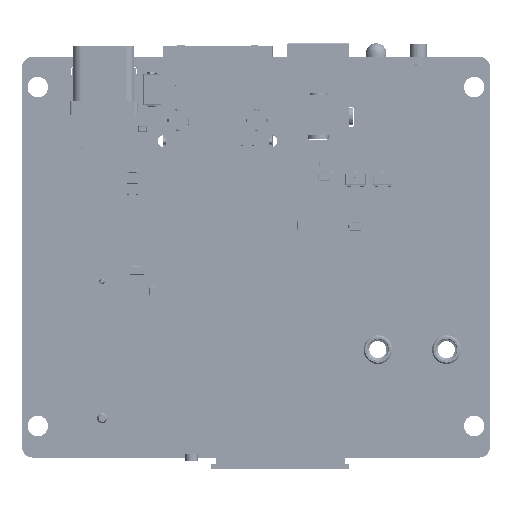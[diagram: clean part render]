
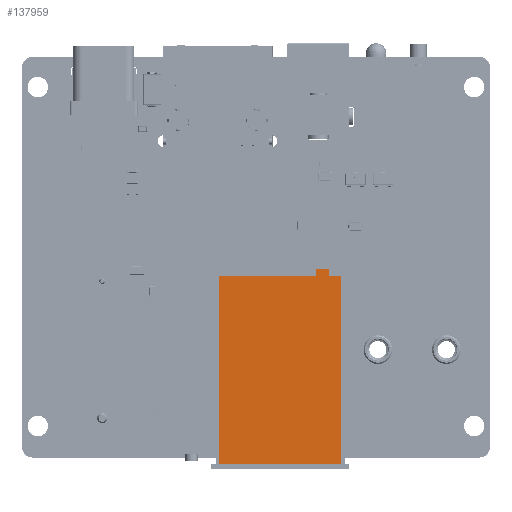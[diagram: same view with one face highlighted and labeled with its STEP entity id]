
A CAD part, front view. The second image highlights one B-rep face of the part: STEP entity #137959.
In plain terms, the highlighted planar face has unit normal (0, -1, 0) as drawn and (0, 1, 0) by its records, which use the part's own axes.
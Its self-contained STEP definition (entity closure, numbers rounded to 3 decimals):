
#135391=DIRECTION('',(-1.,0.,0.));
#135392=VECTOR('',#135391,1.8);
#135393=CARTESIAN_POINT('',(17.9,3.,-26.));
#135394=LINE('',#135393,#135392);
#135398=DIRECTION('',(-1.,0.,0.));
#135399=VECTOR('',#135398,14.139);
#135400=CARTESIAN_POINT('',(14.239,3.,-26.));
#135401=LINE('',#135400,#135399);
#135447=DIRECTION('',(1.,0.,0.));
#135448=VECTOR('',#135447,17.8);
#135449=CARTESIAN_POINT('',(0.1,3.,1.5));
#135450=LINE('',#135449,#135448);
#135454=DIRECTION('',(0.,0.,1.));
#135455=VECTOR('',#135454,0.949);
#135456=CARTESIAN_POINT('',(14.239,3.,-26.949));
#135457=LINE('',#135456,#135455);
#135461=DIRECTION('',(-1.,0.,0.));
#135462=VECTOR('',#135461,1.861);
#135463=CARTESIAN_POINT('',(16.1,3.,-26.949));
#135464=LINE('',#135463,#135462);
#135468=DIRECTION('',(0.,0.,-1.));
#135469=VECTOR('',#135468,0.949);
#135470=CARTESIAN_POINT('',(16.1,3.,-26.));
#135471=LINE('',#135470,#135469);
#135475=DIRECTION('',(0.,0.,-1.));
#135476=VECTOR('',#135475,27.5);
#135477=CARTESIAN_POINT('',(17.9,3.,1.5));
#135478=LINE('',#135477,#135476);
#136734=DIRECTION('',(0.,0.,-1.));
#136735=VECTOR('',#136734,27.5);
#136736=CARTESIAN_POINT('',(0.1,3.,1.5));
#136737=LINE('',#136736,#136735);
#136954=CARTESIAN_POINT('',(16.1,3.,-26.949));
#136955=CARTESIAN_POINT('',(14.239,3.,-26.949));
#136956=VERTEX_POINT('',#136954);
#136957=VERTEX_POINT('',#136955);
#137226=CARTESIAN_POINT('',(0.1,3.,-26.));
#137228=VERTEX_POINT('',#137226);
#137240=CARTESIAN_POINT('',(17.9,3.,-26.));
#137241=VERTEX_POINT('',#137240);
#137242=CARTESIAN_POINT('',(16.1,3.,-26.));
#137244=VERTEX_POINT('',#137242);
#137246=CARTESIAN_POINT('',(14.239,3.,-26.));
#137248=VERTEX_POINT('',#137246);
#137266=CARTESIAN_POINT('',(0.1,3.,1.5));
#137267=CARTESIAN_POINT('',(17.9,3.,1.5));
#137268=VERTEX_POINT('',#137266);
#137269=VERTEX_POINT('',#137267);
#137940=CARTESIAN_POINT('',(0.,3.,0.));
#137941=DIRECTION('',(0.,1.,0.));
#137942=DIRECTION('',(1.,0.,0.));
#137943=AXIS2_PLACEMENT_3D('',#137940,#137941,#137942);
#137944=PLANE('',#137943);
#137946=ORIENTED_EDGE('',*,*,#137945,.F.);
#137948=ORIENTED_EDGE('',*,*,#137947,.T.);
#137949=ORIENTED_EDGE('',*,*,#137910,.F.);
#137950=ORIENTED_EDGE('',*,*,#137879,.F.);
#137952=ORIENTED_EDGE('',*,*,#137951,.F.);
#137953=ORIENTED_EDGE('',*,*,#137929,.F.);
#137954=ORIENTED_EDGE('',*,*,#137899,.F.);
#137956=ORIENTED_EDGE('',*,*,#137955,.F.);
#137957=EDGE_LOOP('',(#137946,#137948,#137949,#137950,#137952,#137953,#137954,
#137956));
#137958=FACE_OUTER_BOUND('',#137957,.F.);
#137959=ADVANCED_FACE('',(#137958),#137944,.T.);
#137879=EDGE_CURVE('',#136957,#137248,#135457,.T.);
#137899=EDGE_CURVE('',#137241,#137244,#135394,.T.);
#137910=EDGE_CURVE('',#137248,#137228,#135401,.T.);
#137929=EDGE_CURVE('',#137244,#136956,#135471,.T.);
#137945=EDGE_CURVE('',#137268,#137269,#135450,.T.);
#137947=EDGE_CURVE('',#137268,#137228,#136737,.T.);
#137951=EDGE_CURVE('',#136956,#136957,#135464,.T.);
#137955=EDGE_CURVE('',#137269,#137241,#135478,.T.);
